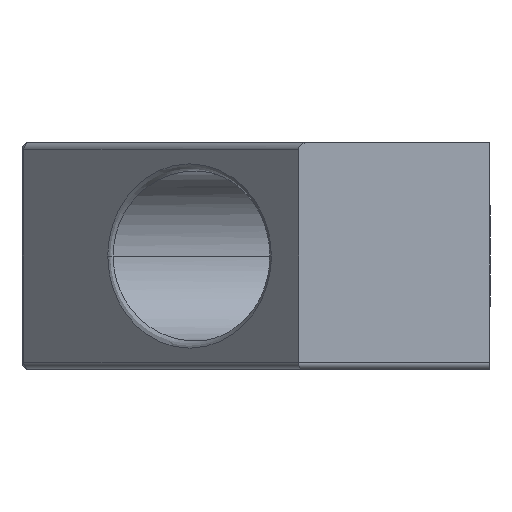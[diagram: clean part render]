
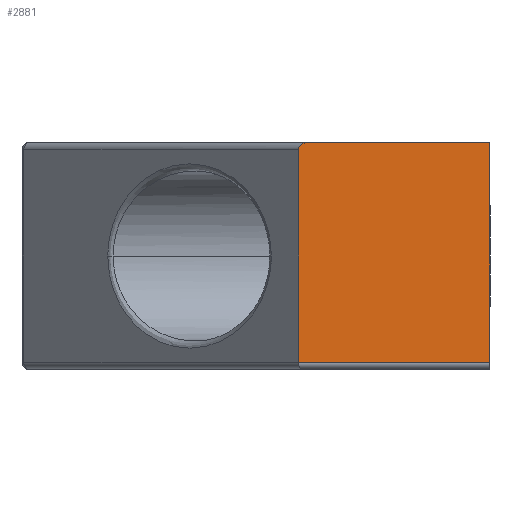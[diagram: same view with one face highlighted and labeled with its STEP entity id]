
A CAD part, left-side view. The second image highlights one B-rep face of the part: STEP entity #2881.
In plain terms, the highlighted planar face has unit normal (-1, 0, 0).
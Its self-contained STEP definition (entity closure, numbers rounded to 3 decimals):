
#80 = LINE ( 'NONE', #2184, #940 ) ;
#189 = CARTESIAN_POINT ( 'NONE',  ( -59., 0., 8. ) ) ;
#235 = DIRECTION ( 'NONE',  ( 0., 0., -1. ) ) ;
#400 = VERTEX_POINT ( 'NONE', #2922 ) ;
#415 = CARTESIAN_POINT ( 'NONE',  ( -59., 12.832, 8. ) ) ;
#438 = LINE ( 'NONE', #3013, #797 ) ;
#465 = LINE ( 'NONE', #1419, #1209 ) ;
#560 = ORIENTED_EDGE ( 'NONE', *, *, #2144, .F. ) ;
#719 = CARTESIAN_POINT ( 'NONE',  ( -59., 0., 8. ) ) ;
#797 = VECTOR ( 'NONE', #1614, 1000. ) ;
#863 =( BOUNDED_CURVE ( )  B_SPLINE_CURVE ( 3, ( #1757, #881, #2024, #2919 ),
 .UNSPECIFIED., .F., .T. ) 
 B_SPLINE_CURVE_WITH_KNOTS ( ( 4, 4 ),
 ( 0., 1.571 ),
 .UNSPECIFIED. ) 
 CURVE ( )  GEOMETRIC_REPRESENTATION_ITEM ( )  RATIONAL_B_SPLINE_CURVE ( ( 1., 0.805, 0.805, 1. ) ) 
 REPRESENTATION_ITEM ( '' )  );
#881 = CARTESIAN_POINT ( 'NONE',  ( -59., 13.5, 7.793 ) ) ;
#940 = VECTOR ( 'NONE', #2894, 1000. ) ;
#1010 = EDGE_CURVE ( 'NONE', #1274, #400, #80, .T. ) ;
#1014 = CARTESIAN_POINT ( 'NONE',  ( -59., 13.5, 7.5 ) ) ;
#1022 = ORIENTED_EDGE ( 'NONE', *, *, #1010, .F. ) ;
#1209 = VECTOR ( 'NONE', #2737, 1000. ) ;
#1271 = VERTEX_POINT ( 'NONE', #1014 ) ;
#1274 = VERTEX_POINT ( 'NONE', #1943 ) ;
#1391 = EDGE_CURVE ( 'NONE', #1414, #1274, #2106, .T. ) ;
#1414 = VERTEX_POINT ( 'NONE', #719 ) ;
#1419 = CARTESIAN_POINT ( 'NONE',  ( -59., 13.5, 8. ) ) ;
#1517 = ORIENTED_EDGE ( 'NONE', *, *, #2349, .T. ) ;
#1614 = DIRECTION ( 'NONE',  ( 0., 1., 0. ) ) ;
#1632 = CARTESIAN_POINT ( 'NONE',  ( -59., 0., 8. ) ) ;
#1757 = CARTESIAN_POINT ( 'NONE',  ( -59., 13.5, 7.5 ) ) ;
#1943 = CARTESIAN_POINT ( 'NONE',  ( -59., 0., -7.5 ) ) ;
#2024 = CARTESIAN_POINT ( 'NONE',  ( -59., 13.223, 8. ) ) ;
#2027 = EDGE_CURVE ( 'NONE', #1414, #2538, #438, .T. ) ;
#2106 = LINE ( 'NONE', #189, #2163 ) ;
#2144 = EDGE_CURVE ( 'NONE', #1271, #2538, #863, .T. ) ;
#2163 = VECTOR ( 'NONE', #235, 1000. ) ;
#2184 = CARTESIAN_POINT ( 'NONE',  ( -59., 13.5, -7.5 ) ) ;
#2298 = FACE_OUTER_BOUND ( 'NONE', #2718, .T. ) ;
#2349 = EDGE_CURVE ( 'NONE', #1271, #400, #465, .T. ) ;
#2538 = VERTEX_POINT ( 'NONE', #415 ) ;
#2559 = DIRECTION ( 'NONE',  ( 1., 0., 0. ) ) ;
#2718 = EDGE_LOOP ( 'NONE', ( #1517, #1022, #3008, #2831, #560 ) ) ;
#2737 = DIRECTION ( 'NONE',  ( 0., 0., -1. ) ) ;
#2760 = PLANE ( 'NONE',  #3006 ) ;
#2831 = ORIENTED_EDGE ( 'NONE', *, *, #2027, .T. ) ;
#2881 = ADVANCED_FACE ( 'NONE', ( #2298 ), #2760, .F. ) ;
#2894 = DIRECTION ( 'NONE',  ( 0., 1., 0. ) ) ;
#2919 = CARTESIAN_POINT ( 'NONE',  ( -59., 12.832, 8. ) ) ;
#2922 = CARTESIAN_POINT ( 'NONE',  ( -59., 13.5, -7.5 ) ) ;
#3006 = AXIS2_PLACEMENT_3D ( 'NONE', #1632, #2559, #3030 ) ;
#3008 = ORIENTED_EDGE ( 'NONE', *, *, #1391, .F. ) ;
#3013 = CARTESIAN_POINT ( 'NONE',  ( -59., 0., 8. ) ) ;
#3030 = DIRECTION ( 'NONE',  ( 0., 0., 1. ) ) ;
